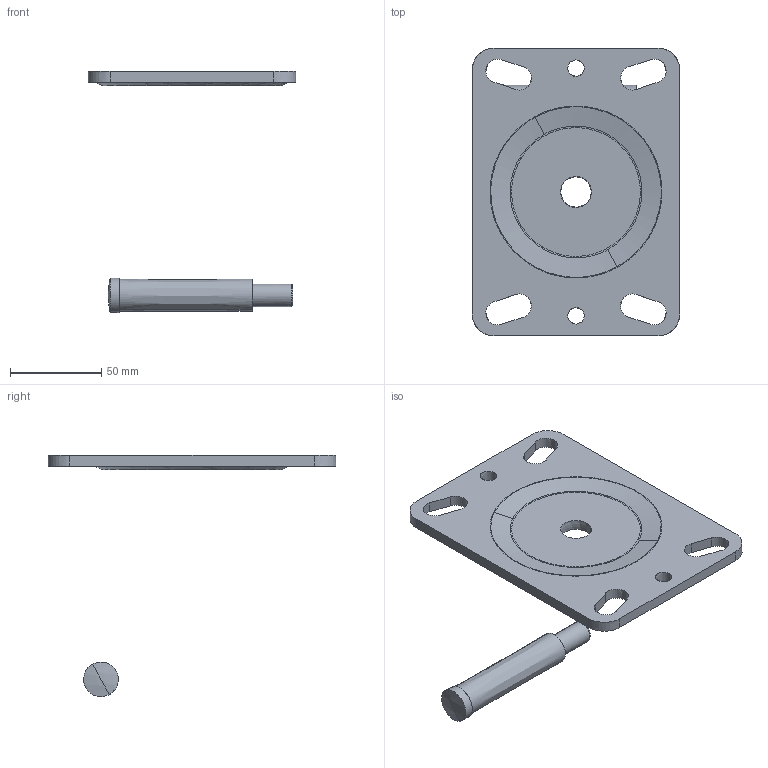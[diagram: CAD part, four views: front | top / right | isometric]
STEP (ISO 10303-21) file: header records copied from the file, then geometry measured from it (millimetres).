
FILE_DESCRIPTION (( 'STEP AP203' ), '1' );
FILE_NAME ('KTU-150WJ-GS-11.STEP', '2019-09-25T07:32:42', ( '' ), ( '' ), 'SwSTEP 2.0', 'SolidWorks 2010', '' );
FILE_SCHEMA (( 'CONFIG_CONTROL_DESIGN' ));
Length unit declared in the file: millimetre
Products named in the file (1): KTU-150WJ-GS-11
Bounding box: 114 x 158 x 132.5 mm (x, y, z)
Volume: 134038.4 mm3; surface area: 49737.4 mm2
Topology: 3 solids, 3 shells, 68 faces, 1107 edges, 1048 vertices
Faces by surface type: bspline 44, plane 22, cone 2
Entity records: 17451 total; most frequent: CARTESIAN_POINT 11071, ORIENTED_EDGE 2210, EDGE_CURVE 1105, VERTEX_POINT 1048, B_SPLINE_CURVE_WITH_KNOTS 885, DIRECTION 272, VECTOR 218, LINE 218
